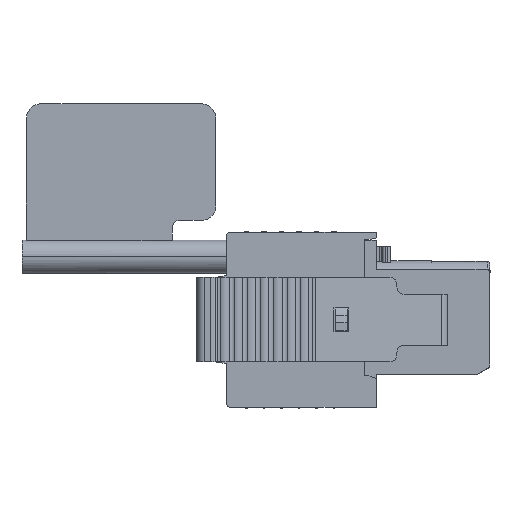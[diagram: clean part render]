
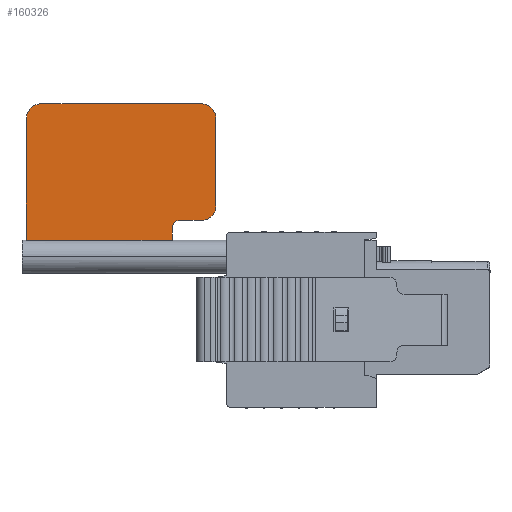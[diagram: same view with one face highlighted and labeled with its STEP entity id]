
A CAD part, left-side view. The second image highlights one B-rep face of the part: STEP entity #160326.
In plain terms, the highlighted planar face has unit normal (-1, 0, 0).
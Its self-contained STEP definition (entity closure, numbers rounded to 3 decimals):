
#57665=DIRECTION('',(0.,1.,0.));
#57666=VECTOR('',#57665,10.);
#57667=CARTESIAN_POINT('',(-17.88,14.,9.746));
#57668=LINE('',#57667,#57666);
#57692=DIRECTION('',(0.,0.,1.));
#57693=VECTOR('',#57692,8.354);
#57694=CARTESIAN_POINT('',(-17.88,24.,9.746));
#57695=LINE('',#57694,#57693);
#57731=DIRECTION('',(0.,0.,1.));
#57732=VECTOR('',#57731,0.854);
#57733=CARTESIAN_POINT('',(-17.88,14.,9.746));
#57734=LINE('',#57733,#57732);
#57735=CARTESIAN_POINT('',(-17.88,13.5,10.6));
#57736=DIRECTION('',(1.,0.,0.));
#57737=DIRECTION('',(0.,1.,0.));
#57738=AXIS2_PLACEMENT_3D('',#57735,#57736,#57737);
#57745=CARTESIAN_POINT('',(-17.88,23.,18.1));
#57746=DIRECTION('',(-1.,0.,0.));
#57747=DIRECTION('',(0.,0.,1.));
#57748=AXIS2_PLACEMENT_3D('',#57745,#57746,#57747);
#57750=DIRECTION('',(0.,-1.,0.));
#57751=VECTOR('',#57750,11.);
#57752=CARTESIAN_POINT('',(-17.88,23.,19.1));
#57753=LINE('',#57752,#57751);
#57754=CARTESIAN_POINT('',(-17.88,12.,18.1));
#57755=DIRECTION('',(-1.,0.,0.));
#57756=DIRECTION('',(0.,-1.,0.));
#57757=AXIS2_PLACEMENT_3D('',#57754,#57755,#57756);
#57759=DIRECTION('',(0.,0.,-1.));
#57760=VECTOR('',#57759,6.);
#57761=CARTESIAN_POINT('',(-17.88,11.,18.1));
#57762=LINE('',#57761,#57760);
#57763=CARTESIAN_POINT('',(-17.88,12.,12.1));
#57764=DIRECTION('',(-1.,0.,0.));
#57765=DIRECTION('',(0.,0.,-1.));
#57766=AXIS2_PLACEMENT_3D('',#57763,#57764,#57765);
#57768=DIRECTION('',(0.,1.,0.));
#57769=VECTOR('',#57768,1.5);
#57770=CARTESIAN_POINT('',(-17.88,12.,11.1));
#57771=LINE('',#57770,#57769);
#104689=CARTESIAN_POINT('',(-17.88,24.,9.746));
#104691=VERTEX_POINT('',#104689);
#104693=CARTESIAN_POINT('',(-17.88,14.,9.746));
#104695=VERTEX_POINT('',#104693);
#104697=CARTESIAN_POINT('',(-17.88,14.,10.6));
#104699=VERTEX_POINT('',#104697);
#104701=CARTESIAN_POINT('',(-17.88,13.5,11.1));
#104703=VERTEX_POINT('',#104701);
#104709=CARTESIAN_POINT('',(-17.88,23.,19.1));
#104710=VERTEX_POINT('',#104709);
#104711=CARTESIAN_POINT('',(-17.88,24.,18.1));
#104712=VERTEX_POINT('',#104711);
#104713=CARTESIAN_POINT('',(-17.88,11.,18.1));
#104714=CARTESIAN_POINT('',(-17.88,12.,19.1));
#104715=VERTEX_POINT('',#104713);
#104716=VERTEX_POINT('',#104714);
#104721=CARTESIAN_POINT('',(-17.88,12.,11.1));
#104722=CARTESIAN_POINT('',(-17.88,11.,12.1));
#104723=VERTEX_POINT('',#104721);
#104724=VERTEX_POINT('',#104722);
#160304=CARTESIAN_POINT('',(-17.88,24.,9.746));
#160305=DIRECTION('',(-1.,0.,0.));
#160306=DIRECTION('',(0.,0.,1.));
#160307=AXIS2_PLACEMENT_3D('',#160304,#160305,#160306);
#160308=PLANE('',#160307);
#160309=ORIENTED_EDGE('',*,*,#160245,.F.);
#160311=ORIENTED_EDGE('',*,*,#160310,.T.);
#160313=ORIENTED_EDGE('',*,*,#160312,.F.);
#160315=ORIENTED_EDGE('',*,*,#160314,.T.);
#160317=ORIENTED_EDGE('',*,*,#160316,.F.);
#160319=ORIENTED_EDGE('',*,*,#160318,.T.);
#160320=ORIENTED_EDGE('',*,*,#160296,.F.);
#160321=ORIENTED_EDGE('',*,*,#160285,.F.);
#160322=ORIENTED_EDGE('',*,*,#160202,.T.);
#160323=ORIENTED_EDGE('',*,*,#160228,.T.);
#160324=EDGE_LOOP('',(#160309,#160311,#160313,#160315,#160317,#160319,#160320,
#160321,#160322,#160323));
#160325=FACE_OUTER_BOUND('',#160324,.F.);
#160326=ADVANCED_FACE('',(#160325),#160308,.T.);
#57739=CIRCLE('',#57738,0.5);
#57749=CIRCLE('',#57748,1.);
#57758=CIRCLE('',#57757,1.);
#57767=CIRCLE('',#57766,1.);
#160202=EDGE_CURVE('',#104695,#104691,#57668,.T.);
#160228=EDGE_CURVE('',#104691,#104712,#57695,.T.);
#160245=EDGE_CURVE('',#104710,#104712,#57749,.T.);
#160285=EDGE_CURVE('',#104695,#104699,#57734,.T.);
#160296=EDGE_CURVE('',#104699,#104703,#57739,.T.);
#160310=EDGE_CURVE('',#104710,#104716,#57753,.T.);
#160312=EDGE_CURVE('',#104715,#104716,#57758,.T.);
#160314=EDGE_CURVE('',#104715,#104724,#57762,.T.);
#160316=EDGE_CURVE('',#104723,#104724,#57767,.T.);
#160318=EDGE_CURVE('',#104723,#104703,#57771,.T.);
